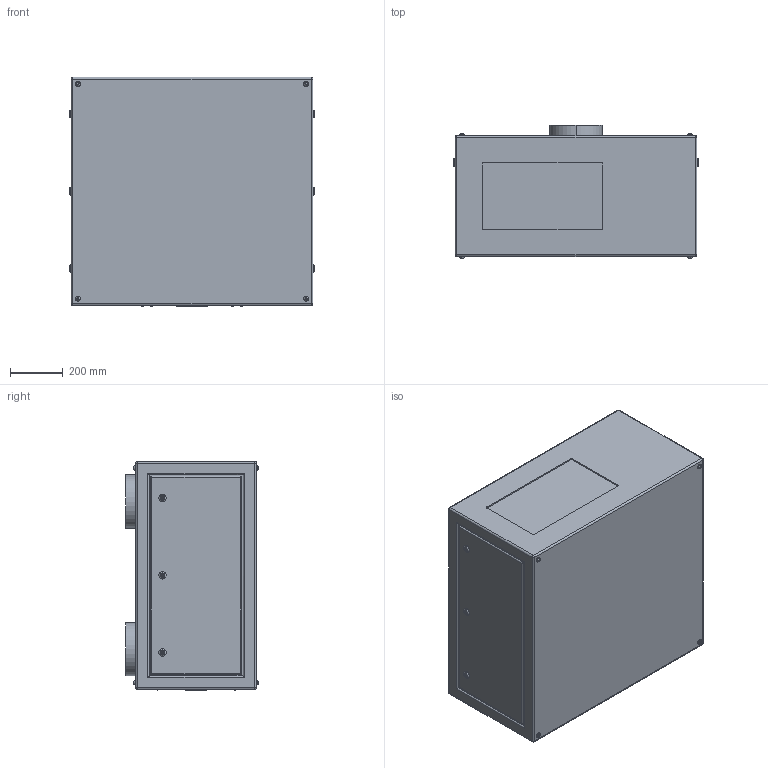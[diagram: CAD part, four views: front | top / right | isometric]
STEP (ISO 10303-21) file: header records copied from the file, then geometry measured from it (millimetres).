
FILE_DESCRIPTION (( 'STEP AP214' ), '1' );
FILE_NAME ('Tacit 56.200.L R08.STEP', '2022-09-11T21:16:51', ( '' ), ( '' ), 'SwSTEP 2.0', 'SolidWorks 2020', '' );
FILE_SCHEMA (( 'AUTOMOTIVE_DESIGN' ));
Length unit declared in the file: inch
Products named in the file (1): Tacit 56.200.L R08
Bounding box: 927.1 x 502.56 x 868.68 mm (x, y, z)
Volume: 360019733.7 mm3; surface area: 3450264.5 mm2
Topology: 1 solids, 5 shells, 365 faces, 812 edges, 508 vertices
Faces by surface type: plane 157, cylinder 156, torus 44, sphere 8
Entity records: 13557 total; most frequent: CARTESIAN_POINT 2110, DIRECTION 1808, ORIENTED_EDGE 1608, EDGE_CURVE 804, AXIS2_PLACEMENT_3D 718, VERTEX_POINT 508, EDGE_LOOP 424, VECTOR 372
